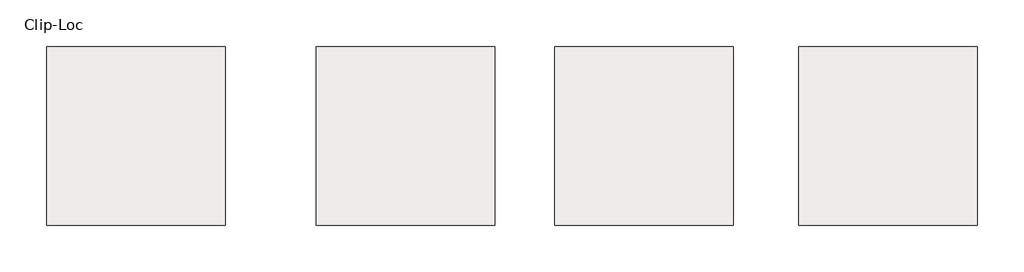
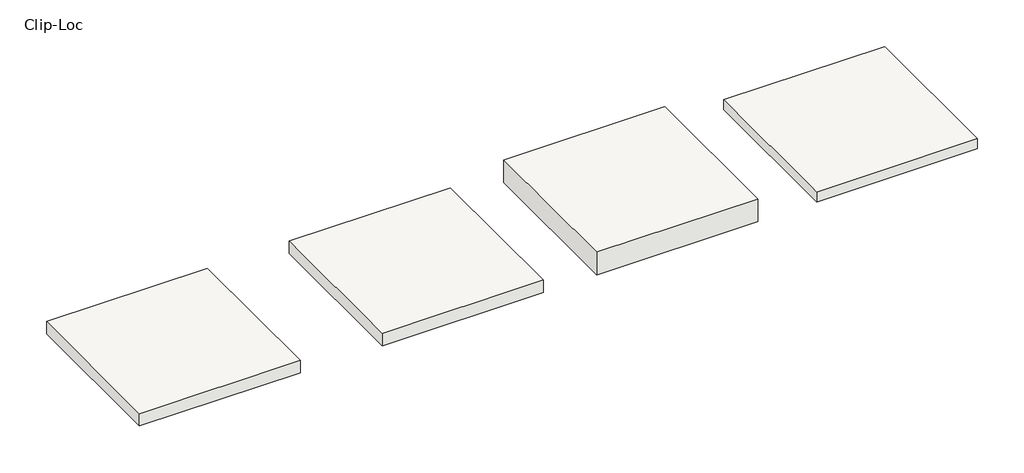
# One storey: 4 roofs.
"""IFC4 building model written with IfcOpenShell, lengths in millimetres."""

import ifcopenshell
import ifcopenshell.guid

model = None  # the IFC model being written
_history = None  # IfcOwnerHistory: only IFC2X3 demands one
_inside = {}  # id of a spatial element -> (the spatial element, [elements in it])
_under = {}  # id of a project, library or spatial element -> (it, [spatial elements below it])
_declared = {}  # id of a project -> (the project, [libraries it declares])
_typed = {}  # id of a type object -> (the type object, [elements of that type])
_made_of = {}  # id of a material, layer set ... -> (it, [elements and type objects made of it])


def new_model(schema):
    """Start an empty IFC model of exactly this schema.

    Asked for "IFC4X3", IfcOpenShell would pick the latest addendum, in which some entities
    have other attributes; the version numbers below select the first issue.
    IFC2X3 requires an IfcOwnerHistory on every rooted entity: one is made here for all.
    """
    global model, _history
    if schema == "IFC4X3":
        model = ifcopenshell.file(schema_version=(4, 3, 0, 0))
    else:
        model = ifcopenshell.file(schema=schema)
    _inside.clear()
    _under.clear()
    _declared.clear()
    _typed.clear()
    _made_of.clear()
    _history = None
    if model.schema == "IFC2X3":
        org = make("IfcOrganization", Name="unknown")
        user = make(
            "IfcPersonAndOrganization",
            ThePerson=make("IfcPerson", FamilyName="unknown"),
            TheOrganization=org,
        )
        app = make(
            "IfcApplication",
            ApplicationDeveloper=org,
            Version="unknown",
            ApplicationFullName="unknown",
            ApplicationIdentifier="unknown",
        )
        _history = make(
            "IfcOwnerHistory",
            OwningUser=user,
            OwningApplication=app,
            ChangeAction="ADDED",
            CreationDate=0,
        )
    return model


def make(cls, **values):
    """One entity of the class cls with the attributes given. An attribute that is None is left unset."""
    return model.create_entity(
        cls, **{name: value for name, value in values.items() if value is not None}
    )


def rooted(cls, **values):
    """An entity with a GlobalId (a new one), such as an element, a storey or a relation."""
    return make(cls, GlobalId=ifcopenshell.guid.new(), OwnerHistory=_history, **values)


def si_unit(unit_type, name, prefix=None):
    """IfcSIUnit, for example si_unit("LENGTHUNIT", "METRE", prefix="MILLI")."""
    return make("IfcSIUnit", UnitType=unit_type, Prefix=prefix, Name=name)


def assignment(units):
    """IfcUnitAssignment: the units of a project."""
    return None if units is None else make("IfcUnitAssignment", Units=units)


def point(xyz):
    """IfcCartesianPoint."""
    return None if xyz is None else make("IfcCartesianPoint", Coordinates=xyz)


def direction(xyz):
    """IfcDirection."""
    return None if xyz is None else make("IfcDirection", DirectionRatios=xyz)


def frame(location, z_axis=None, x_axis=None):
    """IfcAxis2Placement3D, a coordinate frame: its origin and axes. An axis left out is left unset."""
    return make(
        "IfcAxis2Placement3D",
        Location=point(location),
        Axis=direction(z_axis),
        RefDirection=direction(x_axis),
    )


def origin():
    """The frame at (0, 0, 0) with its axes left unset."""
    return frame((0.0, 0.0, 0.0))


def place(relative_to, where):
    """IfcLocalPlacement: puts the frame where relative to a parent placement (None: the world)."""
    return make(
        "IfcLocalPlacement", PlacementRelTo=relative_to, RelativePlacement=where
    )


def context(
    kind, dimensions, precision=None, world=None, true_north=None, identifier=None
):
    """IfcGeometricRepresentationContext, for example the 3D "Model" context."""
    return make(
        "IfcGeometricRepresentationContext",
        ContextIdentifier=identifier,
        ContextType=kind,
        CoordinateSpaceDimension=dimensions,
        Precision=precision,
        WorldCoordinateSystem=world,
        TrueNorth=true_north,
    )


def project(units=None, contexts=None):
    """IfcProject with its units and contexts."""
    return rooted(
        "IfcProject",
        Name="project",
        RepresentationContexts=contexts,
        UnitsInContext=assignment(units),
    )


def spatial(cls, under=None, at=None, **own):
    """A site, building, storey or space (cls), placed at a placement, below another one or the project."""
    s = rooted(cls, ObjectPlacement=at, **own)
    if under is not None:
        _under.setdefault(under.id(), (under, []))[1].append(s)
    return s


def polyline(points):
    """IfcPolyline through the points."""
    return make("IfcPolyline", Points=[point(p) for p in points])


def outline(outer, holes=None, kind="AREA"):
    """IfcArbitraryClosedProfileDef: a profile drawn as a closed curve; with holes, ...WithVoids."""
    if holes is None:
        return make("IfcArbitraryClosedProfileDef", ProfileType=kind, OuterCurve=outer)
    return make(
        "IfcArbitraryProfileDefWithVoids",
        ProfileType=kind,
        OuterCurve=outer,
        InnerCurves=holes,
    )


def extrude(swept, where, along, depth):
    """IfcExtrudedAreaSolid: the profile swept, set in the frame where, extruded along a direction by depth."""
    return make(
        "IfcExtrudedAreaSolid",
        SweptArea=swept,
        Position=where,
        ExtrudedDirection=direction(along),
        Depth=depth,
    )


def shape(context_of_items, identifier, shape_type, items):
    """IfcShapeRepresentation: the items that make up one representation, for example the "Body"."""
    return make(
        "IfcShapeRepresentation",
        ContextOfItems=context_of_items,
        RepresentationIdentifier=identifier,
        RepresentationType=shape_type,
        Items=items,
    )


def made_of(thing, what):
    """Note that an element or type object is made of a material, layer set ...; save() writes the relation."""
    if what is not None:
        _made_of.setdefault(what.id(), (what, []))[1].append(thing)
    return thing


def element(
    cls,
    number,
    at=None,
    inside=None,
    cuts=None,
    type_object=None,
    material=None,
    context=None,
    identifier="Body",
    shape_type=None,
    held_by="IfcProductDefinitionShape",
    body=None,
    shapes=None,
    **own,
):
    """One element of the class cls, such as IfcWall. Its Tag is "e" and its number.

    at: its placement. inside: the storey or other place that contains it. cuts: it is an
    opening in that element (IfcRelVoidsElement). A single representation is given by context,
    identifier, shape_type and body (its items); several are given by shapes. held_by: the class
    of the entity that holds the representations. save() writes the other relations.
    """
    e = rooted(cls, Tag="e%d" % number, ObjectPlacement=at, **own)
    if body is not None:
        shapes = [shape(context, identifier, shape_type, body)]
    if shapes is not None:
        e.Representation = make(held_by, Representations=shapes)
    if inside is not None:
        _inside.setdefault(inside.id(), (inside, []))[1].append(e)
    if cuts is not None:
        rooted(
            "IfcRelVoidsElement", RelatingBuildingElement=cuts, RelatedOpeningElement=e
        )
    if type_object is not None:
        _typed.setdefault(type_object.id(), (type_object, []))[1].append(e)
    return made_of(e, material)


def aggregate(whole, parts):
    """IfcRelAggregates: a whole, such as a stair, and the parts it consists of."""
    return rooted("IfcRelAggregates", RelatingObject=whole, RelatedObjects=parts)


def save(model, path):
    """Write the relations noted so far, then the file.

    IfcRelAggregates (storeys below a building ...), IfcRelContainedInSpatialStructure (elements
    in a storey), IfcRelDefinesByType, IfcRelAssociatesMaterial and IfcRelDeclares: one each for
    every whole, place, type object, material and project.
    """
    for whole, parts in _under.values():
        aggregate(whole, parts)
    for where, things in _inside.values():
        rooted(
            "IfcRelContainedInSpatialStructure",
            RelatedElements=things,
            RelatingStructure=where,
        )
    for kind, things in _typed.values():
        rooted("IfcRelDefinesByType", RelatedObjects=things, RelatingType=kind)
    for what, things in _made_of.values():
        rooted("IfcRelAssociatesMaterial", RelatedObjects=things, RelatingMaterial=what)
    for by, libraries in _declared.values():
        rooted("IfcRelDeclares", RelatingContext=by, RelatedDefinitions=libraries)
    model.write(path)


model = new_model("IFC4")

# Units and contexts
model_context = context("Model", 3, world=origin())
ifc_project = project(units=[si_unit("LENGTHUNIT", "METRE", prefix="MILLI")], contexts=[model_context])

# Site, building, storey
site = spatial("IfcSite", under=ifc_project)
building = spatial("IfcBuilding", under=site)
storey = spatial("IfcBuildingStorey", under=building, Name="Clip-Loc", Elevation=2743.2)

# Roofs
placement = place(None, origin())
element("IfcRoof", 1, ObjectType="Clip-Loc - Solid Substrate", at=placement, inside=storey, context=model_context, shape_type="SweptSolid", body=[
    extrude(outline(polyline([(-13237.4157651, 19652.5817436), (-10189.4157651, 19652.5817436), (-10189.4157651, 16604.5817436), (-13237.4157651, 16604.5817436), (-13237.4157651, 19652.5817436)])), frame((0.0, 0.0, 2743.2), z_axis=(0.0, 0.0, 1.0), x_axis=(1.0, 0.0, 0.0)), (0.0, 0.0, 1.0), 247.65),
])
element("IfcRoof", 2, ObjectType="Clip-Loc - Steel Deck", at=placement, inside=storey, context=model_context, shape_type="SweptSolid", body=[
    extrude(outline(polyline([(-5007.8157651, 19652.5817436), (-1959.8157651, 19652.5817436), (-1959.8157651, 16604.5817436), (-5007.8157651, 16604.5817436), (-5007.8157651, 19652.5817436)])), frame((0.0, 0.0, 2743.2), z_axis=(0.0, 0.0, 1.0), x_axis=(1.0, 0.0, 0.0)), (0.0, 0.0, 1.0), 203.2),
])
element("IfcRoof", 3, ObjectType="Clip-Loc - Steel Framing", at=placement, inside=storey, context=model_context, shape_type="SweptSolid", body=[
    extrude(outline(polyline([(-9173.4157651, 19652.5817436), (-6125.4157651, 19652.5817436), (-6125.4157651, 16604.5817436), (-9173.4157651, 16604.5817436), (-9173.4157651, 19652.5817436)])), frame((0.0, 0.0, 2743.2), z_axis=(0.0, 0.0, 1.0), x_axis=(1.0, 0.0, 0.0)), (0.0, 0.0, 1.0), 454.025),
])
element("IfcRoof", 4, ObjectType="Clip-Loc - Wood Framing", at=placement, inside=storey, context=model_context, shape_type="SweptSolid", body=[
    extrude(outline(polyline([(-17838.4406979, 19652.5817436), (-14790.4406979, 19652.5817436), (-14790.4406979, 16604.5817436), (-17838.4406979, 16604.5817436), (-17838.4406979, 19652.5817436)])), frame((0.0, 0.0, 2743.2), z_axis=(0.0, 0.0, 1.0), x_axis=(1.0, 0.0, 0.0)), (0.0, 0.0, 1.0), 247.65),
])

save(model, "model.ifc")
